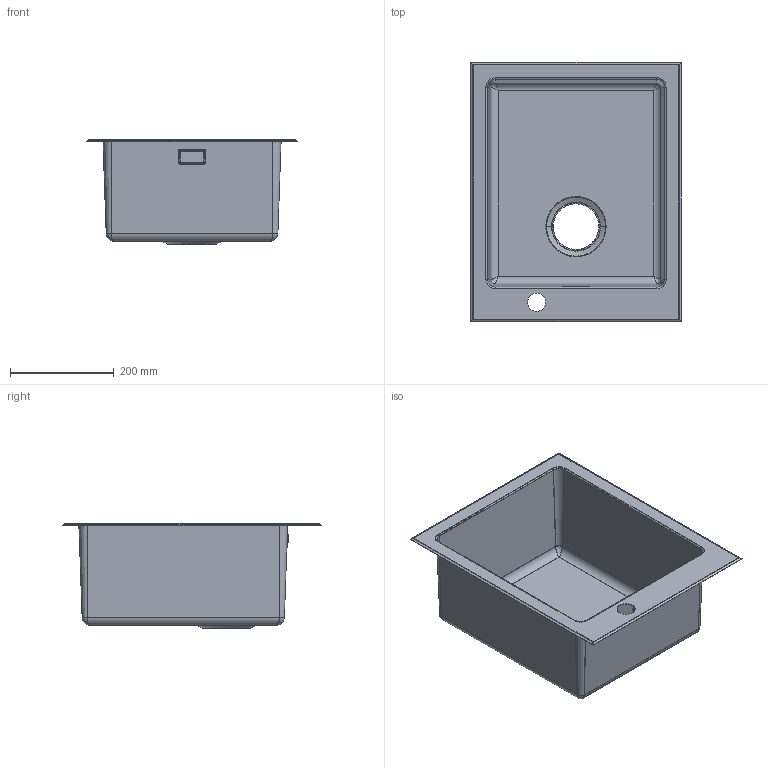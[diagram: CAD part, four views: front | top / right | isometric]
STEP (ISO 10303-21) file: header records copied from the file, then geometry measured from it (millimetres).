
FILE_DESCRIPTION(('CATIA V5 STEP Exchange'),'2;1');
FILE_NAME('\\sr02\Apell\Disegni\DISEGNI\LAVELLI\Radius\STP\4200229.stp','2017-10-17T13:34:00+00:00',('none'),('none'),'CATIA Version 5-6 Release 2014','CATIA V5 STEP AP203','none');
FILE_SCHEMA(('CONFIG_CONTROL_DESIGN'));
Length unit declared in the file: millimetre
Products named in the file (1): Part1
Bounding box: 406.8 x 500 x 200.9 mm (x, y, z)
Volume: 412071.7 mm3; surface area: 917881.6 mm2
Topology: 1 solids, 1 shells, 170 faces, 384 edges, 216 vertices
Faces by surface type: plane 54, bspline 52, cylinder 48, sphere 8, torus 8
Entity records: 10629 total; most frequent: CARTESIAN_POINT 7365, ORIENTED_EDGE 760, DIRECTION 449, EDGE_CURVE 380, VERTEX_POINT 216, EDGE_LOOP 180, AXIS2_PLACEMENT_3D 170, ADVANCED_FACE 170
